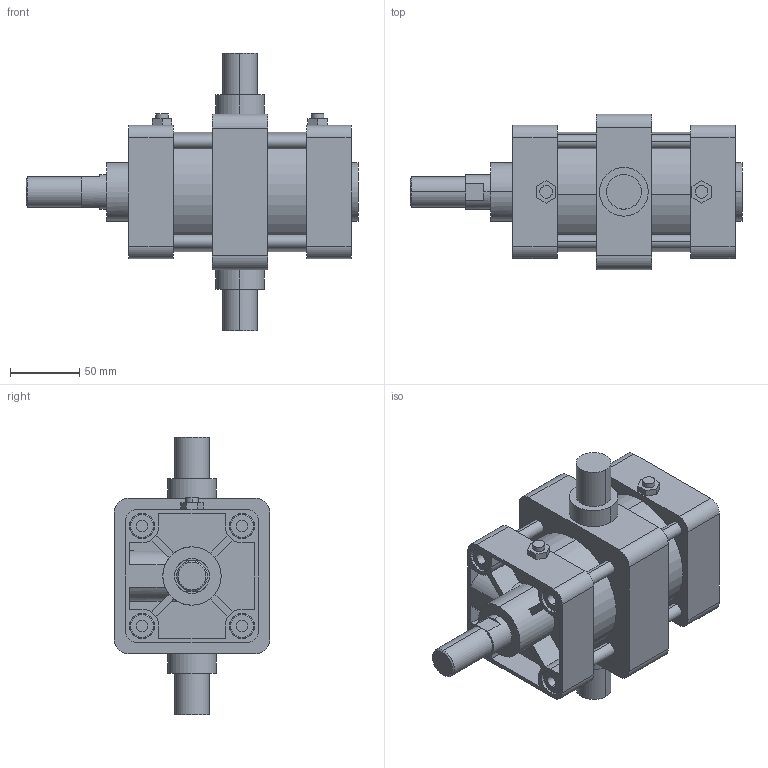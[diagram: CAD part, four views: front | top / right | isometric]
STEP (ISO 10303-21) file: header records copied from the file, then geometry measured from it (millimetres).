
FILE_DESCRIPTION (( 'STEP AP203' ), '1' );
FILE_NAME ('KG2-80-50-T.STEP', '2016-04-01T08:21:03', ( '' ), ( '' ), 'SwSTEP 2.0', 'SolidWorks 2014', '' );
FILE_SCHEMA (( 'CONFIG_CONTROL_DESIGN' ));
Length unit declared in the file: millimetre
Products named in the file (7): K-80-T; KG2-80-50-T; KGLH2-80-50; KG2-80-After
Assembly tree (16 placements, depth 2):
  KG2-80-50-T
    KG2-80-After
    KGLH2-80-50
    (unnamed)
    (unnamed)  x4
    (unnamed)  x8
    K-80-T
Bounding box: 239 x 112 x 200 mm (x, y, z)
Volume: 1365301 mm3; surface area: 224388.9 mm2
Topology: 16 solids, 16 shells, 341 faces, 806 edges, 516 vertices
Faces by surface type: plane 143, cylinder 140, torus 32, cone 26
Entity records: 8599 total; most frequent: CARTESIAN_POINT 1416, DIRECTION 1372, ORIENTED_EDGE 1232, EDGE_CURVE 616, AXIS2_PLACEMENT_3D 514, VERTEX_POINT 406, VECTOR 344, LINE 344
